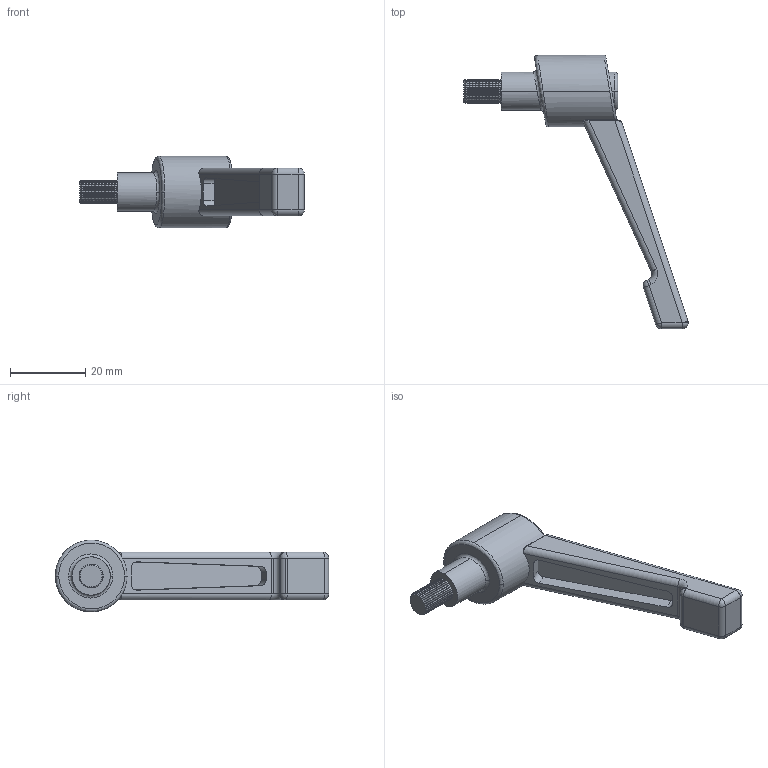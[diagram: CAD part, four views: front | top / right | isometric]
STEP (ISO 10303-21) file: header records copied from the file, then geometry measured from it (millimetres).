
FILE_DESCRIPTION (( 'STEP AP203' ), '1' );
FILE_NAME ('025-064-00 - Lock Lever.STEP', '2015-09-21T14:40:18', ( '' ), ( '' ), 'SwSTEP 2.0', 'SolidWorks 2012', '' );
FILE_SCHEMA (( 'CONFIG_CONTROL_DESIGN' ));
Length unit declared in the file: inch
Products named in the file (1): 025-064-00 - Lock Lever
Bounding box: 59.63 x 72.63 x 19.05 mm (x, y, z)
Volume: 10784.5 mm3; surface area: 5189.1 mm2
Topology: 2 solids, 2 shells, 243 faces, 518 edges, 278 vertices
Faces by surface type: cone 102, cylinder 82, plane 34, bspline 12, sphere 8, torus 5
Entity records: 6823 total; most frequent: CARTESIAN_POINT 1613, DIRECTION 1158, ORIENTED_EDGE 1024, EDGE_CURVE 512, AXIS2_PLACEMENT_3D 454, VERTEX_POINT 278, LINE 250, VECTOR 250
